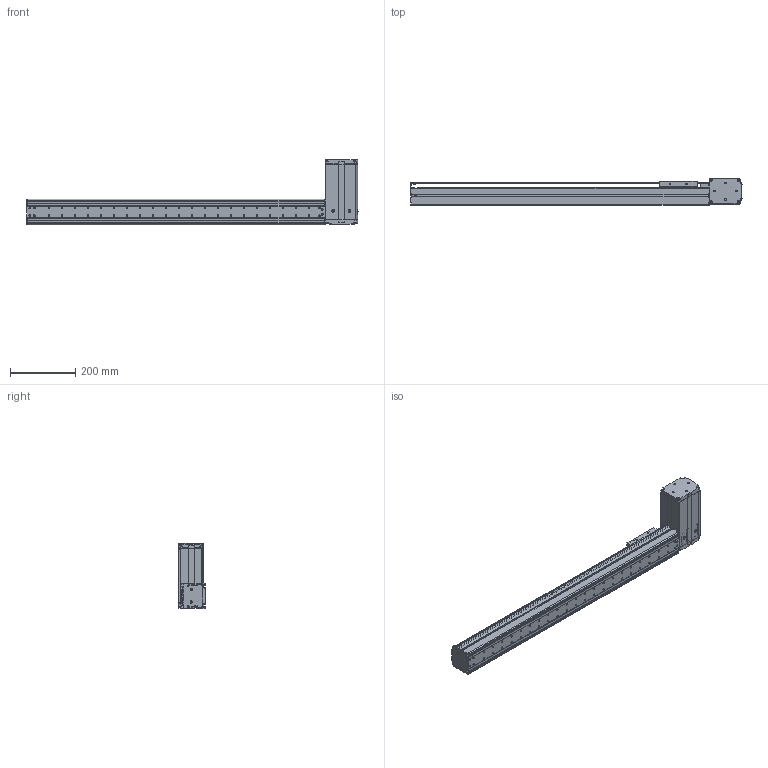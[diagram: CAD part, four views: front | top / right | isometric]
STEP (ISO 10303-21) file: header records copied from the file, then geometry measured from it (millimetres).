
FILE_DESCRIPTION((''),'2;1');
FILE_NAME('BE10_-BR-M_N-70_IGS_PRT','2017-06-18T',(' '),(''),'PRO/ENGINEER BY PARAMETRIC TECHNOLOGY CORPORATION, 2015030','PRO/ENGINEER BY PARAMETRIC TECHNOLOGY CORPORATION, 2015030','');
FILE_SCHEMA(('CONFIG_CONTROL_DESIGN'));
Products named in the file (1): BE10_-BR-M_N-70_IGS_PRT
Bounding box: 1020.8 x 82.5 x 200.22 mm (x, y, z)
Volume: 1321130.4 mm3; surface area: 936280.8 mm2
Topology: 3 solids, 136 shells, 2076 faces, 5663 edges, 3725 vertices
Faces by surface type: plane 991, cylinder 914, cone 111, sphere 30, torus 27, bspline 3
Entity records: 67417 total; most frequent: CARTESIAN_POINT 13762, DIRECTION 11390, ORIENTED_EDGE 10746, EDGE_CURVE 5601, AXIS2_PLACEMENT_3D 4079, VERTEX_POINT 3725, VECTOR 3232, LINE 3232
